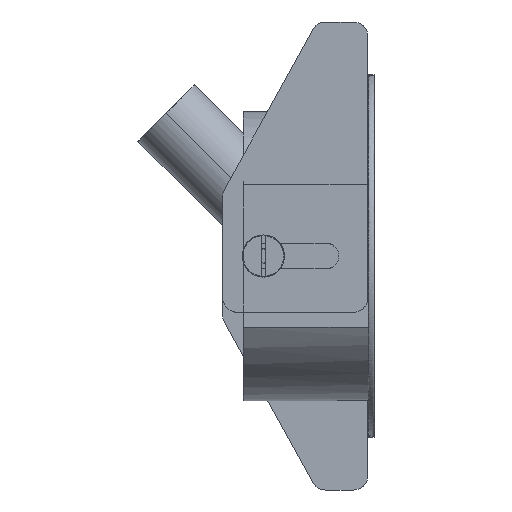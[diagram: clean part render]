
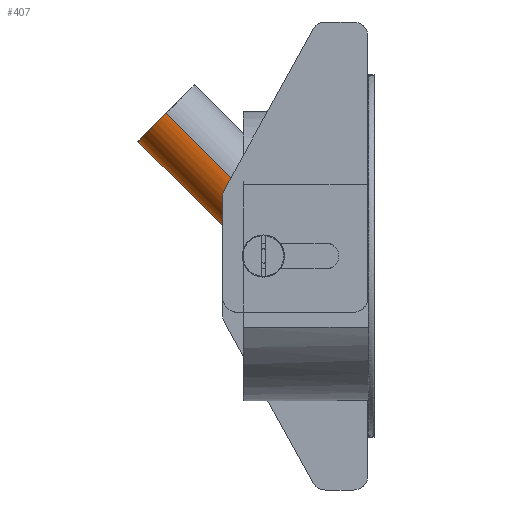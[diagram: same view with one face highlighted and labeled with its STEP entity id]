
A CAD part, left-side view. The second image highlights one B-rep face of the part: STEP entity #407.
In plain terms, the highlighted free-form (B-spline) face has degree [1, 2] with [2, 5] control points.
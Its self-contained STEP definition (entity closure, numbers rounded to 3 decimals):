
#407=ADVANCED_FACE('',(#849),#13575,.T.);
#849=FACE_OUTER_BOUND('',#1311,.T.);
#1311=EDGE_LOOP('',(#2969,#2970,#2971,#2972));
#2969=ORIENTED_EDGE('',*,*,#10048,.F.);
#2970=ORIENTED_EDGE('',*,*,#10052,.F.);
#2971=ORIENTED_EDGE('',*,*,#10046,.F.);
#2972=ORIENTED_EDGE('',*,*,#10049,.F.);
#3851=(
BOUNDED_CURVE()
B_SPLINE_CURVE(1,(#34145,#34146),.UNSPECIFIED.,.F.,.F.)
B_SPLINE_CURVE_WITH_KNOTS((2,2),(0.,25.),.UNSPECIFIED.)
CURVE()
GEOMETRIC_REPRESENTATION_ITEM()
RATIONAL_B_SPLINE_CURVE((1.,1.))
REPRESENTATION_ITEM('')
);
#3853=(
BOUNDED_CURVE()
B_SPLINE_CURVE(1,(#34156,#34157),.UNSPECIFIED.,.F.,.F.)
B_SPLINE_CURVE_WITH_KNOTS((2,2),(-25.,0.),.UNSPECIFIED.)
CURVE()
GEOMETRIC_REPRESENTATION_ITEM()
RATIONAL_B_SPLINE_CURVE((1.,1.))
REPRESENTATION_ITEM('')
);
#3855=(
BOUNDED_CURVE()
B_SPLINE_CURVE(2,(#34165,#34166,#34167,#34168,#34169),.UNSPECIFIED.,.F.,
 .F.)
B_SPLINE_CURVE_WITH_KNOTS((3,2,3),(17.279,25.918,34.558),
 .UNSPECIFIED.)
CURVE()
GEOMETRIC_REPRESENTATION_ITEM()
RATIONAL_B_SPLINE_CURVE((1.,0.707,1.,0.707,1.))
REPRESENTATION_ITEM('')
);
#3856=(
BOUNDED_CURVE()
B_SPLINE_CURVE(2,(#34170,#34171,#34172,#34173,#34174),.UNSPECIFIED.,.F.,
 .F.)
B_SPLINE_CURVE_WITH_KNOTS((3,2,3),(17.279,25.918,34.558),
 .UNSPECIFIED.)
CURVE()
GEOMETRIC_REPRESENTATION_ITEM()
RATIONAL_B_SPLINE_CURVE((1.,0.707,1.,0.707,1.))
REPRESENTATION_ITEM('')
);
#3861=(
BOUNDED_CURVE()
B_SPLINE_CURVE(2,(#34195,#34196,#34197,#34198,#34199),.UNSPECIFIED.,.F.,
 .F.)
B_SPLINE_CURVE_WITH_KNOTS((3,2,3),(-34.558,-25.918,
-17.279),.UNSPECIFIED.)
CURVE()
GEOMETRIC_REPRESENTATION_ITEM()
RATIONAL_B_SPLINE_CURVE((1.,0.707,1.,0.707,1.))
REPRESENTATION_ITEM('')
);
#3862=(
BOUNDED_CURVE()
B_SPLINE_CURVE(2,(#34200,#34201,#34202,#34203,#34204),.UNSPECIFIED.,.F.,
 .F.)
B_SPLINE_CURVE_WITH_KNOTS((3,2,3),(-34.558,-25.918,
-17.279),.UNSPECIFIED.)
CURVE()
GEOMETRIC_REPRESENTATION_ITEM()
RATIONAL_B_SPLINE_CURVE((1.,0.707,1.,0.707,1.))
REPRESENTATION_ITEM('')
);
#5658=PCURVE('',#13571,#7695);
#5660=PCURVE('',#13571,#7697);
#5662=PCURVE('',#13409,#7699);
#5665=PCURVE('',#13410,#7702);
#5689=PCURVE('',#13575,#7726);
#5690=PCURVE('',#13575,#7727);
#5691=PCURVE('',#13575,#7728);
#5692=PCURVE('',#13575,#7729);
#7695=DEFINITIONAL_REPRESENTATION('',(#12222),#39726);
#7697=DEFINITIONAL_REPRESENTATION('',(#12224),#39726);
#7699=DEFINITIONAL_REPRESENTATION('',(#3856),#39726);
#7702=DEFINITIONAL_REPRESENTATION('',(#3862),#39726);
#7726=DEFINITIONAL_REPRESENTATION('',(#12237),#39726);
#7727=DEFINITIONAL_REPRESENTATION('',(#12238),#39726);
#7728=DEFINITIONAL_REPRESENTATION('',(#12239),#39726);
#7729=DEFINITIONAL_REPRESENTATION('',(#12240),#39726);
#8994=SURFACE_CURVE('',#3851,(#5658,#5691),.PCURVE_S1.);
#8996=SURFACE_CURVE('',#3853,(#5660,#5689),.PCURVE_S1.);
#8997=SURFACE_CURVE('',#3855,(#5662,#5692),.PCURVE_S1.);
#9000=SURFACE_CURVE('',#3861,(#5665,#5690),.PCURVE_S1.);
#10046=EDGE_CURVE('',#13188,#13189,#8994,.T.);
#10048=EDGE_CURVE('',#13197,#13196,#8996,.T.);
#10049=EDGE_CURVE('',#13196,#13188,#8997,.T.);
#10052=EDGE_CURVE('',#13189,#13197,#9000,.T.);
#12222=B_SPLINE_CURVE_WITH_KNOTS('',1,(#34147,#34148),.UNSPECIFIED.,.F.,
 .F.,(2,2),(0.,25.),.UNSPECIFIED.);
#12224=B_SPLINE_CURVE_WITH_KNOTS('',1,(#34158,#34159),.UNSPECIFIED.,.F.,
 .F.,(2,2),(-25.,0.),.UNSPECIFIED.);
#12237=B_SPLINE_CURVE_WITH_KNOTS('',1,(#34346,#34347),.UNSPECIFIED.,.F.,
 .F.,(2,2),(-25.,0.),.UNSPECIFIED.);
#12238=B_SPLINE_CURVE_WITH_KNOTS('',1,(#34348,#34349),.UNSPECIFIED.,.F.,
 .F.,(2,2),(-34.558,-17.279),.UNSPECIFIED.);
#12239=B_SPLINE_CURVE_WITH_KNOTS('',1,(#34350,#34351),.UNSPECIFIED.,.F.,
 .F.,(2,2),(0.,25.),.UNSPECIFIED.);
#12240=B_SPLINE_CURVE_WITH_KNOTS('',1,(#34352,#34353),.UNSPECIFIED.,.F.,
 .F.,(2,2),(17.279,34.558),.UNSPECIFIED.);
#13188=VERTEX_POINT('',#34122);
#13189=VERTEX_POINT('',#34123);
#13196=VERTEX_POINT('',#34130);
#13197=VERTEX_POINT('',#34131);
#13409=B_SPLINE_SURFACE_WITH_KNOTS('',1,1,((#34040,#34041),(#34042,#34043)),
 .UNSPECIFIED.,.F.,.F.,.F.,(2,2),(2,2),(-12.375,1.375),(-6.875,
6.875),.UNSPECIFIED.);
#13410=B_SPLINE_SURFACE_WITH_KNOTS('',1,1,((#34044,#34045),(#34046,#34047)),
 .UNSPECIFIED.,.F.,.F.,.F.,(2,2),(2,2),(-6.875,6.875),
(-12.375,1.375),.UNSPECIFIED.);
#13571=(
BOUNDED_SURFACE()
B_SPLINE_SURFACE(1,2,((#34030,#34031,#34032,#34033,#34034),(#34035,#34036,
#34037,#34038,#34039)),.UNSPECIFIED.,.F.,.F.,.F.)
B_SPLINE_SURFACE_WITH_KNOTS((2,2),(3,2,3),(0.,25.),(0.,8.639,
17.279),.UNSPECIFIED.)
GEOMETRIC_REPRESENTATION_ITEM()
RATIONAL_B_SPLINE_SURFACE(((1.,0.707,1.,0.707,1.),
(1.,0.707,1.,0.707,1.)))
REPRESENTATION_ITEM('')
SURFACE()
);
#13575=(
BOUNDED_SURFACE()
B_SPLINE_SURFACE(1,2,((#34082,#34083,#34084,#34085,#34086),(#34087,#34088,
#34089,#34090,#34091)),.UNSPECIFIED.,.F.,.F.,.F.)
B_SPLINE_SURFACE_WITH_KNOTS((2,2),(3,2,3),(0.,25.),(17.279,
25.918,34.558),.UNSPECIFIED.)
GEOMETRIC_REPRESENTATION_ITEM()
RATIONAL_B_SPLINE_SURFACE(((1.,0.707,1.,0.707,1.),
(1.,0.707,1.,0.707,1.)))
REPRESENTATION_ITEM('')
SURFACE()
);
#34030=CARTESIAN_POINT('',(5.501,10.972,2.019));
#34031=CARTESIAN_POINT('',(5.501,7.083,5.908));
#34032=CARTESIAN_POINT('',(0.001,7.083,5.908));
#34033=CARTESIAN_POINT('',(-5.499,7.083,5.908));
#34034=CARTESIAN_POINT('',(-5.499,10.972,2.019));
#34035=CARTESIAN_POINT('',(5.501,28.65,19.697));
#34036=CARTESIAN_POINT('',(5.501,24.761,23.586));
#34037=CARTESIAN_POINT('',(0.001,24.761,23.586));
#34038=CARTESIAN_POINT('',(-5.499,24.761,23.586));
#34039=CARTESIAN_POINT('',(-5.499,28.65,19.697));
#34040=CARTESIAN_POINT('',(-6.874,15.834,-2.842));
#34041=CARTESIAN_POINT('',(-6.874,6.111,6.881));
#34042=CARTESIAN_POINT('',(6.876,15.834,-2.842));
#34043=CARTESIAN_POINT('',(6.876,6.111,6.881));
#34044=CARTESIAN_POINT('',(-6.874,33.511,14.836));
#34045=CARTESIAN_POINT('',(6.876,33.511,14.836));
#34046=CARTESIAN_POINT('',(-6.874,23.789,24.558));
#34047=CARTESIAN_POINT('',(6.876,23.789,24.558));
#34082=CARTESIAN_POINT('',(-5.499,10.972,2.019));
#34083=CARTESIAN_POINT('',(-5.499,14.861,-1.87));
#34084=CARTESIAN_POINT('',(0.001,14.861,-1.87));
#34085=CARTESIAN_POINT('',(5.501,14.861,-1.87));
#34086=CARTESIAN_POINT('',(5.501,10.972,2.019));
#34087=CARTESIAN_POINT('',(-5.499,28.65,19.697));
#34088=CARTESIAN_POINT('',(-5.499,32.539,15.808));
#34089=CARTESIAN_POINT('',(0.001,32.539,15.808));
#34090=CARTESIAN_POINT('',(5.501,32.539,15.808));
#34091=CARTESIAN_POINT('',(5.501,28.65,19.697));
#34122=CARTESIAN_POINT('',(5.501,10.972,2.019));
#34123=CARTESIAN_POINT('',(5.501,28.65,19.697));
#34130=CARTESIAN_POINT('',(-5.499,10.972,2.019));
#34131=CARTESIAN_POINT('',(-5.499,28.65,19.697));
#34145=CARTESIAN_POINT('',(5.501,10.972,2.019));
#34146=CARTESIAN_POINT('',(5.501,28.65,19.697));
#34147=CARTESIAN_POINT('',(0.,0.));
#34148=CARTESIAN_POINT('',(25.,0.));
#34156=CARTESIAN_POINT('',(-5.499,28.65,19.697));
#34157=CARTESIAN_POINT('',(-5.499,10.972,2.019));
#34158=CARTESIAN_POINT('',(25.,17.279));
#34159=CARTESIAN_POINT('',(0.,17.279));
#34165=CARTESIAN_POINT('',(-5.499,10.972,2.019));
#34166=CARTESIAN_POINT('',(-5.499,14.861,-1.87));
#34167=CARTESIAN_POINT('',(0.001,14.861,-1.87));
#34168=CARTESIAN_POINT('',(5.501,14.861,-1.87));
#34169=CARTESIAN_POINT('',(5.501,10.972,2.019));
#34170=CARTESIAN_POINT('',(-11.,0.));
#34171=CARTESIAN_POINT('',(-11.,-5.5));
#34172=CARTESIAN_POINT('',(-5.5,-5.5));
#34173=CARTESIAN_POINT('',(0.,-5.5));
#34174=CARTESIAN_POINT('',(0.,0.));
#34195=CARTESIAN_POINT('',(5.501,28.65,19.697));
#34196=CARTESIAN_POINT('',(5.501,32.539,15.808));
#34197=CARTESIAN_POINT('',(0.001,32.539,15.808));
#34198=CARTESIAN_POINT('',(-5.499,32.539,15.808));
#34199=CARTESIAN_POINT('',(-5.499,28.65,19.697));
#34200=CARTESIAN_POINT('',(0.,0.));
#34201=CARTESIAN_POINT('',(-5.5,0.));
#34202=CARTESIAN_POINT('',(-5.5,-5.5));
#34203=CARTESIAN_POINT('',(-5.5,-11.));
#34204=CARTESIAN_POINT('',(0.,-11.));
#34346=CARTESIAN_POINT('',(25.,17.279));
#34347=CARTESIAN_POINT('',(0.,17.279));
#34348=CARTESIAN_POINT('',(25.,34.558));
#34349=CARTESIAN_POINT('',(25.,17.279));
#34350=CARTESIAN_POINT('',(0.,34.558));
#34351=CARTESIAN_POINT('',(25.,34.558));
#34352=CARTESIAN_POINT('',(0.,17.279));
#34353=CARTESIAN_POINT('',(0.,34.558));
#39726=(
GEOMETRIC_REPRESENTATION_CONTEXT(2)
PARAMETRIC_REPRESENTATION_CONTEXT()
REPRESENTATION_CONTEXT('pspace','')
);
